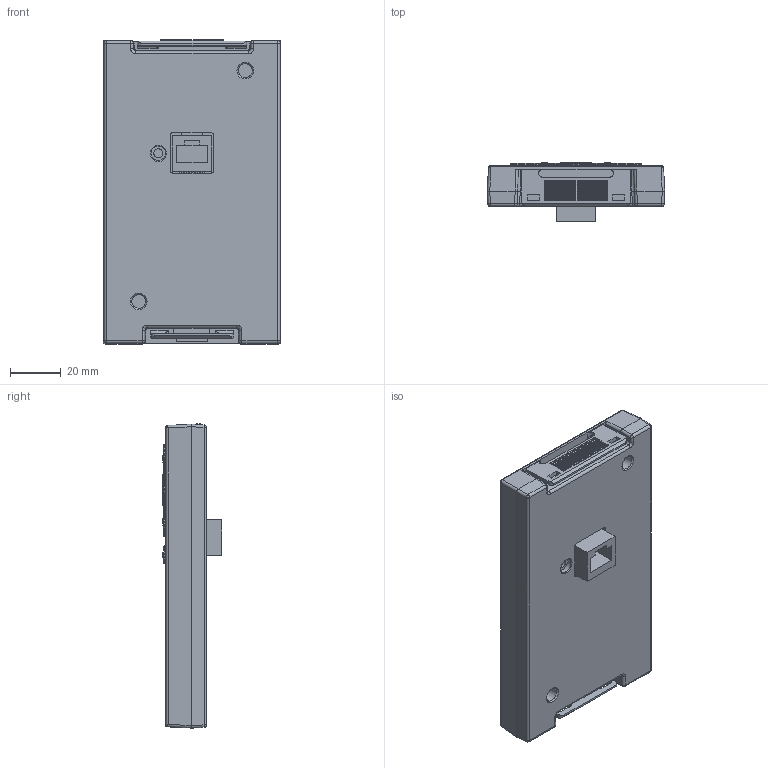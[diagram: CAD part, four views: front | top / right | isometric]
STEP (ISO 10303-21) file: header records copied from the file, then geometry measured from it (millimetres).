
FILE_DESCRIPTION(('STEP AP203'), '1');
FILE_NAME('F41510164 智能柔性高配操作器;AS.OPG;LCD屏', '', ('UNSPECIFIED'), ('UNSPECIFIED'), 'C3D Converter', 'C3D Toolkit', '');
FILE_SCHEMA(('CONFIG_CONTROL_DESIGN'));
Length unit declared in the file: millimetre
Products named in the file (11): INPRIME-KP; R13014454 КЦІЩЖчПВїЗ;ET064T039.43-008;ЦЗДЬИбРФЗэ跚X2\040704160405041C0401\X0\F2; R13014510 КЦІЩЖчЙПїЗ;є枯X2\0455\X0\琵X2\0416\X0\枯X2\0408\X0\聚T064T039.43.02;ИбРФЖЅМЁF2; КЦІЩЖчЙПїЗ;ИбРФЖЅМЁ ET06 4T039.43.02-001; КЦІЩЖчѕｵЖｬ;ИбРФЖЅМЁ ET06 4T039.43.02-002; H81101465 PROD20003EV4;AS.L04P;ЦЗДЬИбРФЗэ跚X2\040704160405041C0401041A04260406042904160447\X0\豹X2\04350426\X0\崤X2\041D0401\X0\; R11114349 PCB;PROD20003EV4;AS.L04 P;ЦЗДЬИбРФЗэ跚X2\040704160405041C0401041A04260406042904160447\X0\豹X2\0435\X0\; S11050493 AS.OPG;SDR_FD1.P1_V1ЦЗДЬИбРФКЦІЩLCD±кЧј; R11207874 SB;»ЄЅЬ;TSSB-31HL 9MM ;6.2x6.2x 5mmєЪЙ«\X2\04170431040Ò04X0\X0\°\X2\040Ò0458044C\X0\; R11014066 琵X2\043704560428\X0\;ЛЙПВ;35mAh 3V;CR1220;Е吒X2\0457042B041A0405043F\X0\挾зіШ; R13014458 КЦІЩЖч°\X2\040Ô0458044C\X0\;ET064T039.43-012;SY.T.0012;ИбРФЖЅМЁF2
Assembly tree (23 placements, depth 3):
  INPRIME-KP
    R13014454 КЦІЩЖчПВїЗ;ET064T039.43-008;ЦЗДЬИбРФЗэ跚X2\040704160405041C0401\X0\F2
    R13014510 КЦІЩЖчЙПїЗ;є枯X2\0455\X0\琵X2\0416\X0\枯X2\0408\X0\聚T064T039.43.02;ИбРФЖЅМЁF2
      КЦІЩЖчЙПїЗ;ИбРФЖЅМЁ ET06 4T039.43.02-001
      КЦІЩЖчѕｵЖｬ;ИбРФЖЅМЁ ET06 4T039.43.02-002
    H81101465 PROD20003EV4;AS.L04P;ЦЗДЬИбРФЗэ跚X2\040704160405041C0401041A04260406042904160447\X0\豹X2\04350426\X0\崤X2\041D0401\X0\
      R11114349 PCB;PROD20003EV4;AS.L04 P;ЦЗДЬИбРФЗэ跚X2\040704160405041C0401041A04260406042904160447\X0\豹X2\0435\X0\
      S11050493 AS.OPG;SDR_FD1.P1_V1ЦЗДЬИбРФКЦІЩLCD±кЧј
      R11207874 SB;»ЄЅЬ;TSSB-31HL 9MM ;6.2x6.2x 5mmєЪЙ«\X2\04170431040Ò04X0\X0\°\X2\040Ò0458044C\X0\  x13
      R11014066 琵X2\043704560428\X0\;ЛЙПВ;35mAh 3V;CR1220;Е吒X2\0457042B041A0405043F\X0\挾зіШ  x2
    R13014458 КЦІЩЖч°\X2\040Ô0458044C\X0\;ET064T039.43-012;SY.T.0012;ИбРФЖЅМЁF2
Bounding box: 70 x 23.6 x 119.93 mm (x, y, z)
Volume: 78819.4 mm3; surface area: 90804 mm2
Topology: 21 solids, 21 shells, 1930 faces, 4948 edges, 3236 vertices
Faces by surface type: plane 1310, cylinder 337, cone 110, bspline 101, torus 64, sphere 8
Full cylindrical faces by diameter (mm): 1.2 x2, 1.5 x4, 1.8 x4, 2 x2, 2.2 x4, 2.4 x4, 2.8 x1, 3 x7, 3.2 x1, 3.5 x17, 4 x2, 4.5 x11, 4.8 x2, 5.001 x1, 5.2 x2, 6.5 x1, 8.686 x2
Entity records: 86406 total; most frequent: CARTESIAN_POINT 29238, ORIENTED_EDGE 8976, DIRECTION 8029, EDGE_CURVE 4488, LINE 3139, VECTOR 3139, VERTEX_POINT 3012, AXIS2_PLACEMENT_3D 2445
